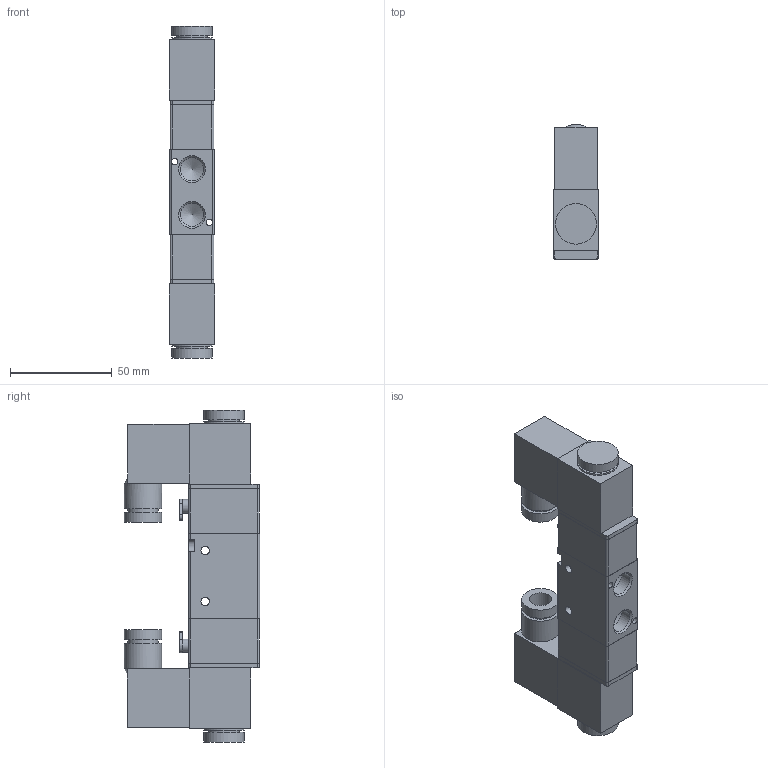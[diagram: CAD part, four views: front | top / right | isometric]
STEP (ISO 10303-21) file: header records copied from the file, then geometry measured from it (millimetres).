
FILE_DESCRIPTION( ( 'STEP AP214' ), '1' );
FILE_NAME( 'C:/Users/EMC02301/Desktop/RV3/RV3222-08E8.stp', '2026-07-31T10:30:40', ( 'License CC BY-ND 4.0' ), ( 'CADENAS' ), ' ', 'PARTsolutions', ' ' );
FILE_SCHEMA( ( 'AUTOMOTIVE_DESIGN { 1 0 10303 214 1 1 1 1 }' ) );
Length unit declared in the file: millimetre
Products named in the file (2): RV3222-08E8; _RV3222-08E8-body
Assembly tree (1 placements, depth 2):
  RV3222-08E8
    _RV3222-08E8-body
Bounding box: 22.3 x 66.6 x 163.4 mm (x, y, z)
Volume: 153197.3 mm3; surface area: 31517.9 mm2
Topology: 1 solids, 1 shells, 139 faces, 347 edges, 228 vertices
Faces by surface type: plane 80, cylinder 51, cone 8
Full cylindrical faces by diameter (mm): 3.2 x2, 4.2 x2, 6.5 x1, 6.8 x1, 10.8 x2, 11.445 x3, 15 x4, 18.4 x4, 20 x4
Entity records: 5203 total; most frequent: CARTESIAN_POINT 839, DIRECTION 686, ORIENTED_EDGE 598, EDGE_CURVE 299, AXIS2_PLACEMENT_3D 252, VERTEX_POINT 214, EDGE_LOOP 200, LINE 182
